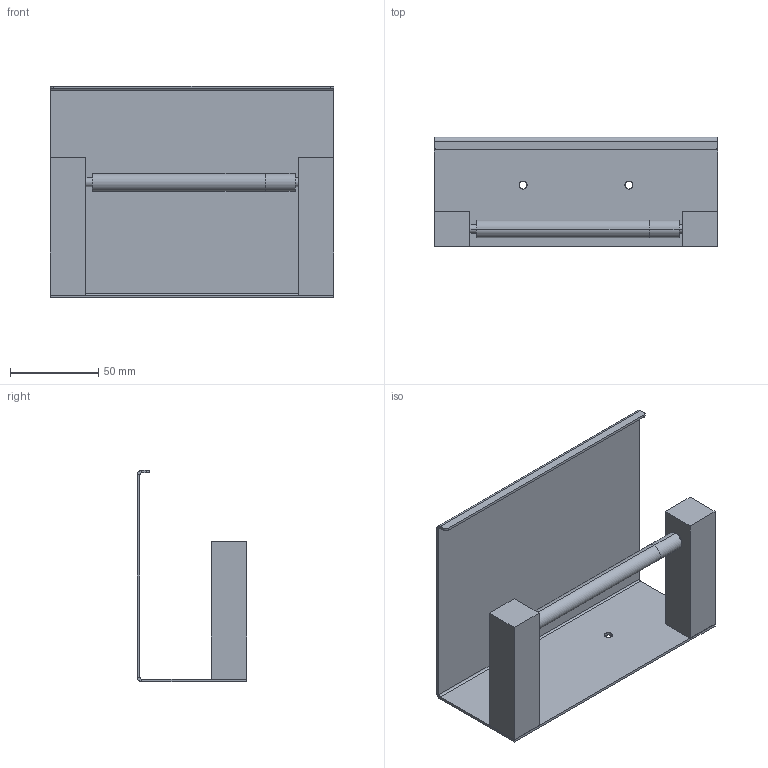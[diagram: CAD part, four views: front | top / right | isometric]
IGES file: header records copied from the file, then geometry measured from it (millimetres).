
Start section: SolidWorks IGES file using analytic representation for surfaces
Global section: file name: G:\Projects\New project\For Marketing\IGS\DXF & IGS\2290159.IGS; native system: SolidWorks 2010; preprocessor: SolidWorks 2010; author: weijuan; date: 151007.162108; units: inch
Bounding box: 161 x 62 x 120 mm (x, y, z)
Surface area: 77674.9 mm2 (no closed solid volume)
Topology: 0 solids, 0 shells, 98 faces, 736 edges, 734 vertices
Faces by surface type: bspline 60, revolution 38
